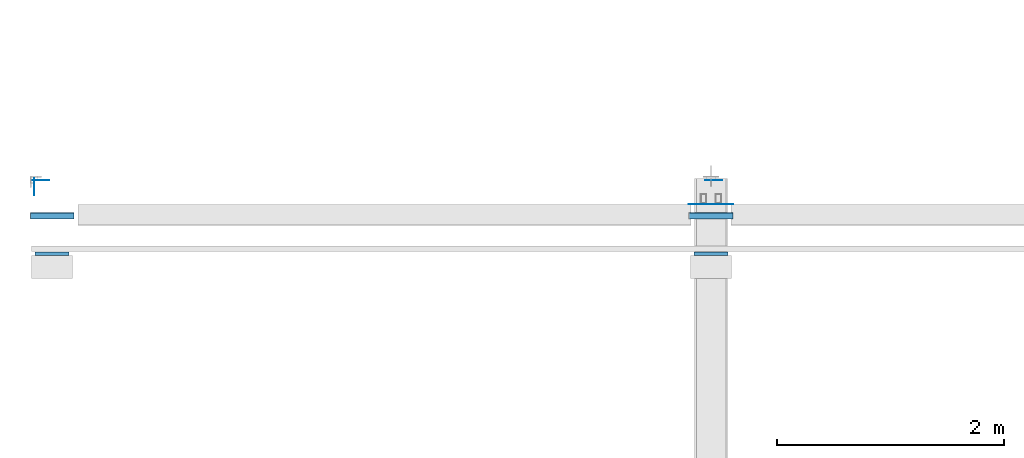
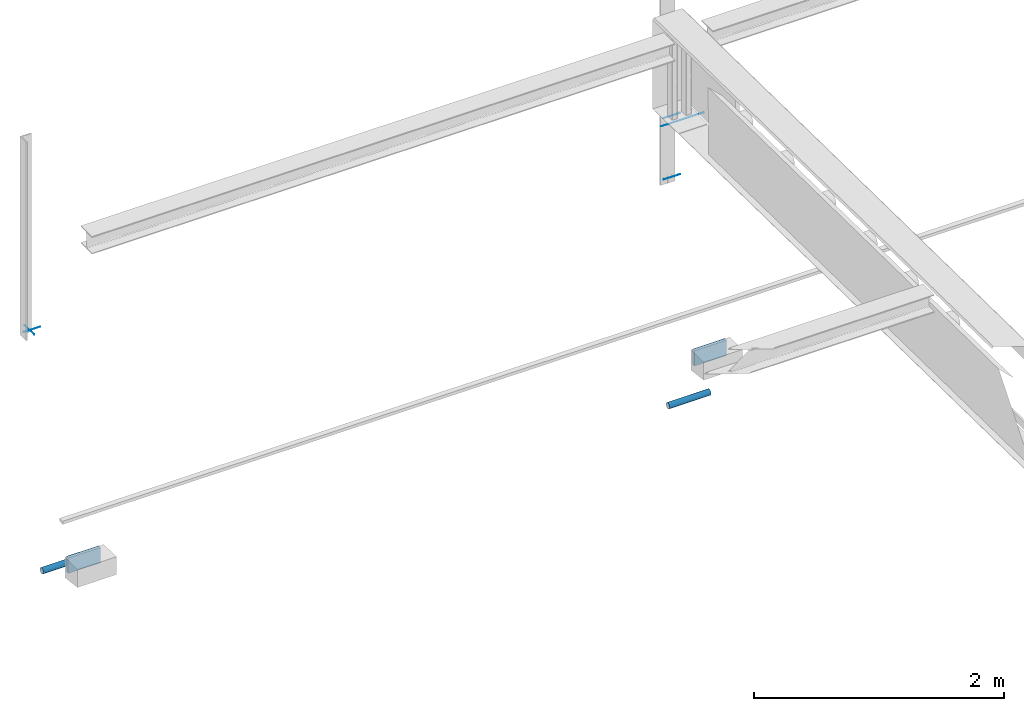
# One storey, part 36 of 186: 9 beams.
"""IFC4X3_ADD2 building model written with IfcOpenShell, lengths in millimetres."""

from ifc_helpers import new_model, si_unit, direction, frame, frame_2d, origin_with_axes, place, context, subcontext, project, spatial, rectangle, hollow_circle, extrude, material, element, save


model = new_model("IFC4X3_ADD2")

# Units and contexts
model_context = context("Model", 3, precision=1e-05, world=origin_with_axes(), true_north=direction((0.0, 1.0)))
body_context = subcontext(model_context, "Body", "Model", "MODEL_VIEW")
ifc_project = project(units=[si_unit("LENGTHUNIT", "METRE", prefix="MILLI"), si_unit("AREAUNIT", "SQUARE_METRE"), si_unit("VOLUMEUNIT", "CUBIC_METRE"), si_unit("PLANEANGLEUNIT", "RADIAN"), si_unit("TIMEUNIT", "SECOND"), si_unit("MASSUNIT", "GRAM")], contexts=[model_context])

# Site, building, storey
site_placement = place(None, origin_with_axes())
site = spatial("IfcSite", under=ifc_project, at=site_placement, Name="Site", CompositionType="ELEMENT")
building_placement = place(site_placement, origin_with_axes())
building = spatial("IfcBuilding", under=site, at=building_placement, Name="IFC Building Story")
storey_placement = place(building_placement, frame((0.0, 0.0, 4370.0), z_axis=(0.0, 0.0, 1.0), x_axis=(1.0, 0.0, 0.0)))
storey = spatial("IfcBuildingStorey", under=building, at=storey_placement, Name="ETAGE 10 (1)", Elevation=4370.0)

# Beams
ifc_material_1 = material(Name="STEEL/Accessory_invisible")
beam_1_placement = place(storey_placement, frame((4802.68934822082, 17906.9997253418, 3759.5), z_axis=(1.0, 0.0, 0.0), x_axis=(0.0, 0.0, 1.0)))
element("IfcBeam", 1, at=beam_1_placement, inside=storey, material=ifc_material_1, Name="RH14", ObjectType="1*1 6", context=body_context, shape_type="SweptSolid", body=[
    extrude(rectangle(XDim=0.9999999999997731, YDim=150.000000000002, at=frame_2d((0.0, 5.95523630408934e-12), x_axis=(1.0, 0.0))), origin_with_axes(), (0.0, 0.0, 1.0), 1.0),
])
beam_2_placement = place(storey_placement, frame((4934.189348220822, 17962.9997253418, 3710.5), z_axis=(-1.0, 0.0, 0.0), x_axis=(0.0, -1.0, 0.0)))
element("IfcBeam", 2, at=beam_2_placement, inside=storey, material=ifc_material_1, Name="RH14", ObjectType="1*1 3", context=body_context, shape_type="SweptSolid", body=[
    extrude(rectangle(XDim=0.9999999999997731, YDim=0.9999999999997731, at=frame_2d((0.0, 5.95523630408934e-12), x_axis=(1.0, 0.0))), origin_with_axes(), (0.0, 0.0, 1.0), 150.0000000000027),
])
beam_3_placement = place(storey_placement, frame((10951.1886362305, 17749.9997253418, 3829.450000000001), z_axis=(-1.0, 0.0, 0.0), x_axis=(0.0, -1.0, 0.0)))
element("IfcBeam", 3, at=beam_3_placement, inside=storey, material=ifc_material_1, Name="RH15", ObjectType="1*1 3", context=body_context, shape_type="SweptSolid", body=[
    extrude(rectangle(XDim=0.9999999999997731, YDim=0.9999999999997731, at=frame_2d((0.0, 5.95523630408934e-12), x_axis=(1.0, 0.0))), origin_with_axes(), (0.0, 0.0, 1.0), 390.0),
])
for number, where, z_axis, x_axis, name in (
    (4, (10856.1886362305, 17962.9997253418, 3729.45), (-1.0, 0.0, 0.0), (0.0, -1.0, 0.0), "RH14"),
    (5, (10856.1886362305, 17962.9997253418, 3129.45), (-1.0, 0.0, 0.0), (0.0, -1.0, 0.0), "RH14"),
):
    element("IfcBeam", number, at=place(storey_placement, frame(where, z_axis=z_axis, x_axis=x_axis)), inside=storey, material=ifc_material_1, Name=name, ObjectType="1*1 3", context=body_context, shape_type="SweptSolid", body=[
        extrude(rectangle(XDim=0.9999999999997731, YDim=0.9999999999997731, at=frame_2d((0.0, 5.95523630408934e-12), x_axis=(1.0, 0.0))), origin_with_axes(), (0.0, 0.0, 1.0), 150.0000000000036),
    ])
ifc_material_2 = material(Name="STEEL/Accessory_PVC")
for number, where, z_axis, x_axis, name in (
    (6, (4769.18934827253, 17649.9997253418, 1569.634), (1.0, 0.0, 0.0), (0.0, 0.0, -1.0), "PS13"),
    (7, (10564.1886362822, 17649.9997253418, 1155.604), (1.0, 0.0, 0.0), (0.0, 0.0, -1.0), "PS13"),
):
    element("IfcBeam", number, at=place(storey_placement, frame(where, z_axis=z_axis, x_axis=x_axis)), inside=storey, material=ifc_material_2, Name=name, ObjectType="O56*3", context=body_context, shape_type="SweptSolid", body=[
        extrude(hollow_circle(Radius=28.0, WallThickness=3.0, at=frame_2d((0.0, 5.95523630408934e-12), x_axis=(1.0, 0.0))), origin_with_axes(), (0.0, 0.0, 1.0), 384.0),
    ])
ifc_material_3 = material(Name="STEEL/Accessory_EPS")
beam_4_placement = place(storey_placement, frame((5111.189348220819, 17314.9997253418, 1815.00000000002), z_axis=(-1.0, 0.0, 0.0), x_axis=(0.0, 0.0, -1.0)))
element("IfcBeam", 8, at=beam_4_placement, inside=storey, material=ifc_material_3, Name="POL4", ObjectType="30*300 4", context=body_context, shape_type="SweptSolid", body=[
    extrude(rectangle(XDim=149.999999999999, YDim=29.9999999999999, at=frame_2d((0.0, 5.95523630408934e-12), x_axis=(1.0, 0.0))), origin_with_axes(), (0.0, 0.0, 1.0), 299.9999999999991),
])
beam_5_placement = place(storey_placement, frame((10906.1886362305, 17314.9997253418, 1815.00000000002), z_axis=(-1.0, 0.0, 0.0), x_axis=(0.0, 0.0, -1.0)))
element("IfcBeam", 9, at=beam_5_placement, inside=storey, material=ifc_material_3, Name="POL4", ObjectType="30*300 4", context=body_context, shape_type="SweptSolid", body=[
    extrude(rectangle(XDim=149.999999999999, YDim=29.9999999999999, at=frame_2d((0.0, 5.95523630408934e-12), x_axis=(1.0, 0.0))), origin_with_axes(), (0.0, 0.0, 1.0), 300.0000000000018),
])

save(model, "model.ifc")
